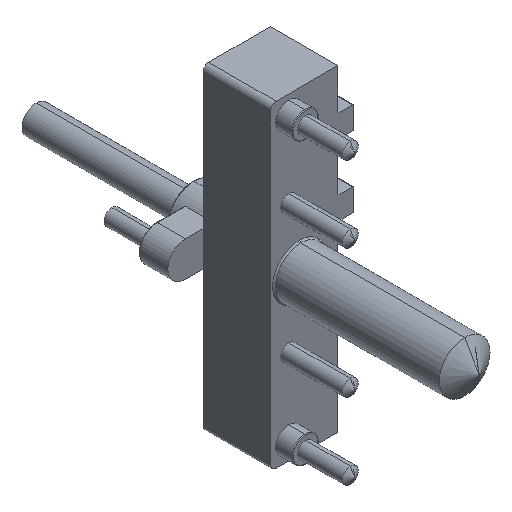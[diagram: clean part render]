
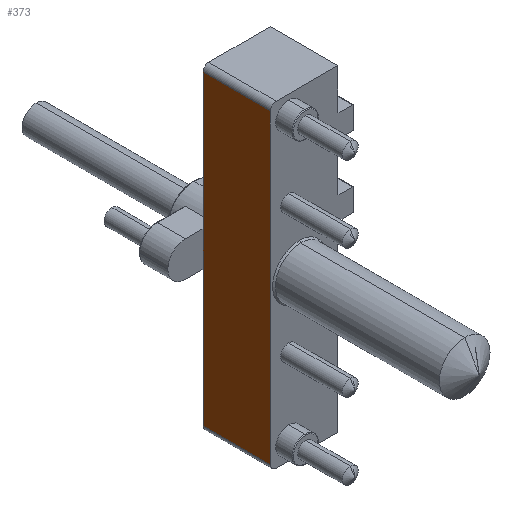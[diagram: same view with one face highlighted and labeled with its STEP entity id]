
A CAD part, isometric view. The second image highlights one B-rep face of the part: STEP entity #373.
In plain terms, the highlighted planar face has unit normal (-1, 0, 0).
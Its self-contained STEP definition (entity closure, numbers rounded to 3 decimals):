
#4 = CARTESIAN_POINT ( 'NONE',  ( -20.5, 0., -109. ) ) ;
#28 = LINE ( 'NONE', #2276, #1058 ) ;
#29 = CARTESIAN_POINT ( 'NONE',  ( -20.5, -48., -109. ) ) ;
#70 = DIRECTION ( 'NONE',  ( 0., 0., 1. ) ) ;
#137 = VERTEX_POINT ( 'NONE', #1281 ) ;
#229 = CARTESIAN_POINT ( 'NONE',  ( -20.5, 0., -113. ) ) ;
#330 = VERTEX_POINT ( 'NONE', #2162 ) ;
#333 = CARTESIAN_POINT ( 'NONE',  ( -20.5, 0., 109. ) ) ;
#348 = EDGE_LOOP ( 'NONE', ( #2148, #679, #2287, #910, #2012, #2103 ) ) ;
#373 = ADVANCED_FACE ( 'NONE', ( #1583 ), #676, .T. ) ;
#501 = VERTEX_POINT ( 'NONE', #4 ) ;
#633 = EDGE_CURVE ( 'NONE', #1935, #721, #28, .T. ) ;
#659 = VECTOR ( 'NONE', #1419, 1000. ) ;
#676 = PLANE ( 'NONE',  #2093 ) ;
#679 = ORIENTED_EDGE ( 'NONE', *, *, #1744, .T. ) ;
#704 = VECTOR ( 'NONE', #70, 1000. ) ;
#721 = VERTEX_POINT ( 'NONE', #966 ) ;
#806 = DIRECTION ( 'NONE',  ( 0., 0., 1. ) ) ;
#910 = ORIENTED_EDGE ( 'NONE', *, *, #1171, .T. ) ;
#941 = EDGE_CURVE ( 'NONE', #501, #721, #1916, .T. ) ;
#966 = CARTESIAN_POINT ( 'NONE',  ( -20.5, 0., -12.5 ) ) ;
#1058 = VECTOR ( 'NONE', #1318, 1000. ) ;
#1171 = EDGE_CURVE ( 'NONE', #137, #1622, #1604, .T. ) ;
#1281 = CARTESIAN_POINT ( 'NONE',  ( -20.5, -48., 109. ) ) ;
#1298 = DIRECTION ( 'NONE',  ( 0., -1., 0. ) ) ;
#1318 = DIRECTION ( 'NONE',  ( 0., 0., -1. ) ) ;
#1373 = DIRECTION ( 'NONE',  ( 0., 0., 1. ) ) ;
#1393 = CARTESIAN_POINT ( 'NONE',  ( -20.5, 0., 12.5 ) ) ;
#1419 = DIRECTION ( 'NONE',  ( 0., 1., 0. ) ) ;
#1531 = EDGE_CURVE ( 'NONE', #330, #137, #1965, .T. ) ;
#1575 = EDGE_CURVE ( 'NONE', #1935, #1622, #1585, .T. ) ;
#1583 = FACE_OUTER_BOUND ( 'NONE', #348, .T. ) ;
#1585 = LINE ( 'NONE', #2334, #1778 ) ;
#1604 = LINE ( 'NONE', #2351, #659 ) ;
#1622 = VERTEX_POINT ( 'NONE', #333 ) ;
#1719 = VECTOR ( 'NONE', #1298, 1000. ) ;
#1744 = EDGE_CURVE ( 'NONE', #501, #330, #2264, .T. ) ;
#1757 = CARTESIAN_POINT ( 'NONE',  ( -20.5, -48., -113. ) ) ;
#1778 = VECTOR ( 'NONE', #1373, 1000. ) ;
#1916 = LINE ( 'NONE', #229, #704 ) ;
#1935 = VERTEX_POINT ( 'NONE', #1393 ) ;
#1953 = CARTESIAN_POINT ( 'NONE',  ( -20.5, -48., -113. ) ) ;
#1965 = LINE ( 'NONE', #1953, #2240 ) ;
#2012 = ORIENTED_EDGE ( 'NONE', *, *, #1575, .F. ) ;
#2093 = AXIS2_PLACEMENT_3D ( 'NONE', #1757, #2331, #806 ) ;
#2103 = ORIENTED_EDGE ( 'NONE', *, *, #633, .T. ) ;
#2109 = DIRECTION ( 'NONE',  ( 0., 0., 1. ) ) ;
#2148 = ORIENTED_EDGE ( 'NONE', *, *, #941, .F. ) ;
#2162 = CARTESIAN_POINT ( 'NONE',  ( -20.5, -48., -109. ) ) ;
#2240 = VECTOR ( 'NONE', #2109, 1000. ) ;
#2264 = LINE ( 'NONE', #29, #1719 ) ;
#2276 = CARTESIAN_POINT ( 'NONE',  ( -20.5, 0., -113. ) ) ;
#2287 = ORIENTED_EDGE ( 'NONE', *, *, #1531, .T. ) ;
#2331 = DIRECTION ( 'NONE',  ( -1., 0., 0. ) ) ;
#2334 = CARTESIAN_POINT ( 'NONE',  ( -20.5, 0., -113. ) ) ;
#2351 = CARTESIAN_POINT ( 'NONE',  ( -20.5, -48., 109. ) ) ;
